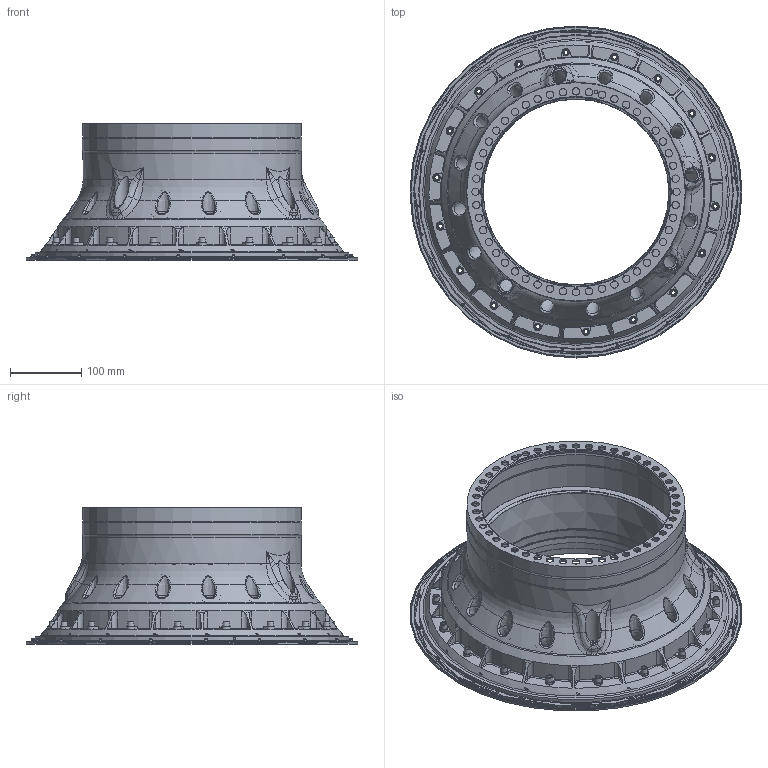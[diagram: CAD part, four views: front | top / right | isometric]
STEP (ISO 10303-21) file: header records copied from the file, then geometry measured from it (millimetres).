
FILE_DESCRIPTION(/* description */ (''),/* implementation_level */ '2;1');
FILE_NAME(/* name */ '2726M26G02_1-FWD NOZZLE ASSY.stp',/* time_stamp */ '2026-07-02T09:07:24-04:00',/* author */ (''),/* organization */ (''),/* preprocessor_version */ 'ST-DEVELOPER v16.7',/* originating_system */ 'SIEMENS PLM Software NX 12.0',/* authorisation */ '');
FILE_SCHEMA (('AP203_CONFIGURATION_CONTROLLED_3D_DESIGN_OF_MECHANICAL_PARTS_AND_ASSEMBLIES_MIM_LF { 1 0 10303 403 2 1 2}'));
Length unit declared in the file: inch
Products named in the file (2): 2726M26G02_ASSY_00_1-FWD NOZZLE ASSY; 2726M26G02_ASSEMBLY_OP530_N_C_1-FWD NOZZLE ASSY
Assembly tree (1 placements, depth 2):
  2726M26G02_ASSEMBLY_OP530_N_C_1-FWD NOZZLE ASSY
    2726M26G02_ASSY_00_1-FWD NOZZLE ASSY
Bounding box: 465.58 x 465.58 x 191.36 mm (x, y, z)
Volume: 1378850.4 mm3; surface area: 945882.8 mm2
Topology: 38 solids, 38 shells, 2474 faces, 6155 edges, 3740 vertices
Faces by surface type: bspline 949, cylinder 607, plane 362, torus 309, cone 227, extrusion 12, sphere 8
Full cylindrical faces by diameter (mm): 1.702 x18, 2.576 x1, 2.591 x1, 3.792 x18, 3.81 x18, 3.828 x1, 4.775 x1, 5.613 x18, 6.54 x18, 7.772 x18, 7.874 x18, 10.338 x48, 21.336 x4, 260.096 x1, 260.35 x1, 261.112 x1, 261.747 x1, 263.779 x2, 265.125 x1, 281.737 x1, 292.964 x1, 300.431 x1, 301.955 x1, 302.158 x1, 304.673 x1, 305.968 x1, 306.172 x1, 306.273 x1, 307.543 x1, 309.88 x1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
Entity records: 182232 total; most frequent: CARTESIAN_POINT 118014, ORIENTED_EDGE 10666, DIRECTION 7837, EDGE_CURVE 5333, AXIS2_PLACEMENT_3D 3566, VERTEX_POINT 3509, EDGE_LOOP 3322, ADVANCED_FACE 2474
